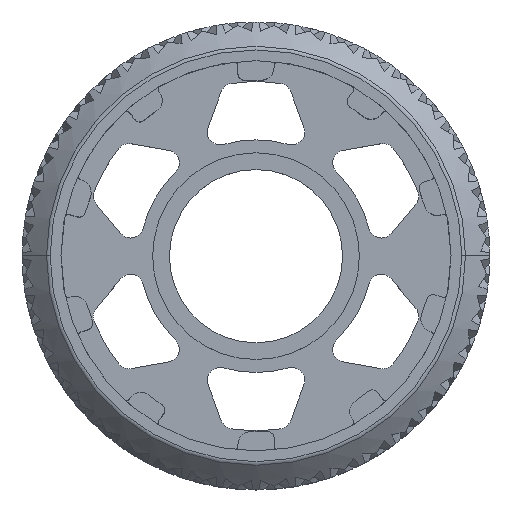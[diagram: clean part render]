
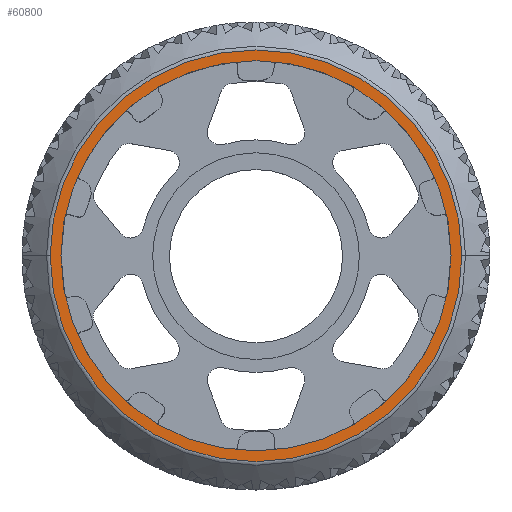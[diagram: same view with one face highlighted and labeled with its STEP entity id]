
A CAD part, top view. The second image highlights one B-rep face of the part: STEP entity #60800.
In plain terms, the highlighted planar face has unit normal (0, 0, 1).
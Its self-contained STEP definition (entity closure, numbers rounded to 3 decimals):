
#106 = EDGE_CURVE ( 'NONE', #26626, #128429, #62578, .T. ) ;
#9298 = ORIENTED_EDGE ( 'NONE', *, *, #30753, .T. ) ;
#10245 = AXIS2_PLACEMENT_3D ( 'NONE', #112734, #82654, #123431 ) ;
#10580 = CARTESIAN_POINT ( 'NONE',  ( 0., 0., 18.9 ) ) ;
#14903 = CARTESIAN_POINT ( 'NONE',  ( 0., 0., 18.9 ) ) ;
#15304 = CARTESIAN_POINT ( 'NONE',  ( 15.934, 0., 18.9 ) ) ;
#22461 = VERTEX_POINT ( 'NONE', #15304 ) ;
#23424 = ORIENTED_EDGE ( 'NONE', *, *, #65224, .F. ) ;
#26432 = DIRECTION ( 'NONE',  ( 0., 0., 1. ) ) ;
#26626 = VERTEX_POINT ( 'NONE', #56716 ) ;
#27577 = ORIENTED_EDGE ( 'NONE', *, *, #119370, .T. ) ;
#30069 = AXIS2_PLACEMENT_3D ( 'NONE', #10580, #51361, #92135 ) ;
#30753 = EDGE_CURVE ( 'NONE', #106060, #22461, #119099, .T. ) ;
#34797 = AXIS2_PLACEMENT_3D ( 'NONE', #14903, #55689, #96473 ) ;
#36434 = FACE_BOUND ( 'NONE', #121969, .T. ) ;
#40528 = CARTESIAN_POINT ( 'NONE',  ( 0., 0., 18.9 ) ) ;
#44866 = CARTESIAN_POINT ( 'NONE',  ( 15.1, 0., 18.9 ) ) ;
#51361 = DIRECTION ( 'NONE',  ( 0., 0., 1. ) ) ;
#55689 = DIRECTION ( 'NONE',  ( 0., 0., 1. ) ) ;
#56716 = CARTESIAN_POINT ( 'NONE',  ( -15.1, 0., 18.9 ) ) ;
#60800 = ADVANCED_FACE ( 'NONE', ( #128010, #36434 ), #77183, .T. ) ;
#62578 = CIRCLE ( 'NONE', #34797, 15.1 ) ;
#65224 = EDGE_CURVE ( 'NONE', #128429, #26626, #115044, .T. ) ;
#65286 = ORIENTED_EDGE ( 'NONE', *, *, #106, .F. ) ;
#67199 = DIRECTION ( 'NONE',  ( 1., 0., 0. ) ) ;
#67890 = CIRCLE ( 'NONE', #10245, 15.934 ) ;
#73572 = AXIS2_PLACEMENT_3D ( 'NONE', #117973, #26432, #67199 ) ;
#77183 = PLANE ( 'NONE',  #73572 ) ;
#81287 = DIRECTION ( 'NONE',  ( 0., 0., 1. ) ) ;
#82654 = DIRECTION ( 'NONE',  ( 0., 0., 1. ) ) ;
#92135 = DIRECTION ( 'NONE',  ( 1., 0., 0. ) ) ;
#96473 = DIRECTION ( 'NONE',  ( 1., 0., 0. ) ) ;
#106060 = VERTEX_POINT ( 'NONE', #109439 ) ;
#109439 = CARTESIAN_POINT ( 'NONE',  ( -15.934, 0., 18.9 ) ) ;
#112734 = CARTESIAN_POINT ( 'NONE',  ( 0., 0., 18.9 ) ) ;
#114655 = EDGE_LOOP ( 'NONE', ( #27577, #9298 ) ) ;
#115044 = CIRCLE ( 'NONE', #132091, 15.1 ) ;
#117973 = CARTESIAN_POINT ( 'NONE',  ( 0., 0., 18.9 ) ) ;
#119099 = CIRCLE ( 'NONE', #30069, 15.934 ) ;
#119370 = EDGE_CURVE ( 'NONE', #22461, #106060, #67890, .T. ) ;
#121969 = EDGE_LOOP ( 'NONE', ( #65286, #23424 ) ) ;
#122080 = DIRECTION ( 'NONE',  ( 1., 0., 0. ) ) ;
#123431 = DIRECTION ( 'NONE',  ( 1., 0., 0. ) ) ;
#128010 = FACE_OUTER_BOUND ( 'NONE', #114655, .T. ) ;
#128429 = VERTEX_POINT ( 'NONE', #44866 ) ;
#132091 = AXIS2_PLACEMENT_3D ( 'NONE', #40528, #81287, #122080 ) ;
